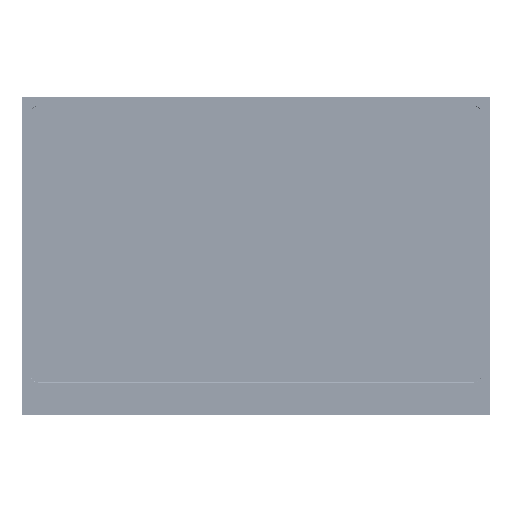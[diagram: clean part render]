
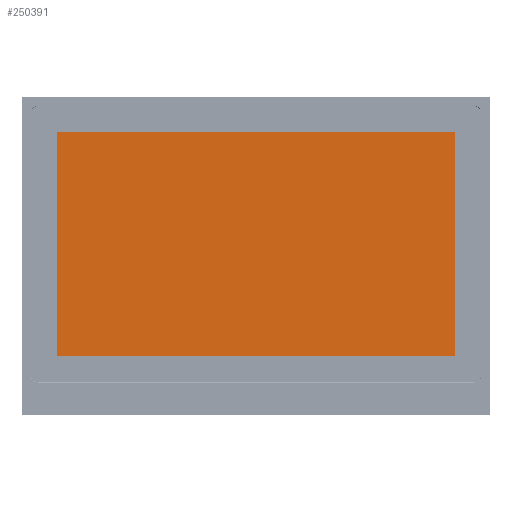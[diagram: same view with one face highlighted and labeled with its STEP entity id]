
A CAD part, top view. The second image highlights one B-rep face of the part: STEP entity #250391.
In plain terms, the highlighted planar face has unit normal (0, 0, 1).
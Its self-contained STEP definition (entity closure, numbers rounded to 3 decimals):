
#8721=FACE_OUTER_BOUND('',#21635,.T.);
#21635=EDGE_LOOP('',(#159023,#159024,#159025,#159026));
#40733=LINE('',#350132,#68823);
#40734=LINE('',#350134,#68824);
#40735=LINE('',#350136,#68825);
#40736=LINE('',#350137,#68826);
#68823=VECTOR('',#282472,10.);
#68824=VECTOR('',#282473,10.);
#68825=VECTOR('',#282474,10.);
#68826=VECTOR('',#282475,10.);
#97204=VERTEX_POINT('',#350130);
#97205=VERTEX_POINT('',#350131);
#97206=VERTEX_POINT('',#350133);
#97207=VERTEX_POINT('',#350135);
#121538=EDGE_CURVE('',#97204,#97205,#40733,.T.);
#121539=EDGE_CURVE('',#97205,#97206,#40734,.T.);
#121540=EDGE_CURVE('',#97206,#97207,#40735,.T.);
#121541=EDGE_CURVE('',#97207,#97204,#40736,.T.);
#159023=ORIENTED_EDGE('',*,*,#121538,.T.);
#159024=ORIENTED_EDGE('',*,*,#121539,.T.);
#159025=ORIENTED_EDGE('',*,*,#121540,.T.);
#159026=ORIENTED_EDGE('',*,*,#121541,.T.);
#228952=PLANE('',#263975);
#250391=ADVANCED_FACE('',(#8721),#228952,.T.);
#263975=AXIS2_PLACEMENT_3D('',#350129,#282470,#282471);
#282470=DIRECTION('center_axis',(0.,0.,
1.));
#282471=DIRECTION('ref_axis',(1.,0.,0.));
#282472=DIRECTION('',(0.,-1.,0.));
#282473=DIRECTION('',(1.,0.,0.));
#282474=DIRECTION('',(0.,1.,0.));
#282475=DIRECTION('',(-1.,0.,0.));
#350129=CARTESIAN_POINT('Origin',(0.,14.1,
6.19));
#350130=CARTESIAN_POINT('',(-238.4,148.25,6.19));
#350131=CARTESIAN_POINT('',(-238.4,-120.05,6.19));
#350132=CARTESIAN_POINT('',(-238.4,-120.05,6.19));
#350133=CARTESIAN_POINT('',(238.4,-120.05,6.19));
#350134=CARTESIAN_POINT('',(238.4,-120.05,6.19));
#350135=CARTESIAN_POINT('',(238.4,148.25,6.19));
#350136=CARTESIAN_POINT('',(238.4,148.25,6.19));
#350137=CARTESIAN_POINT('',(-238.4,148.25,6.19));
